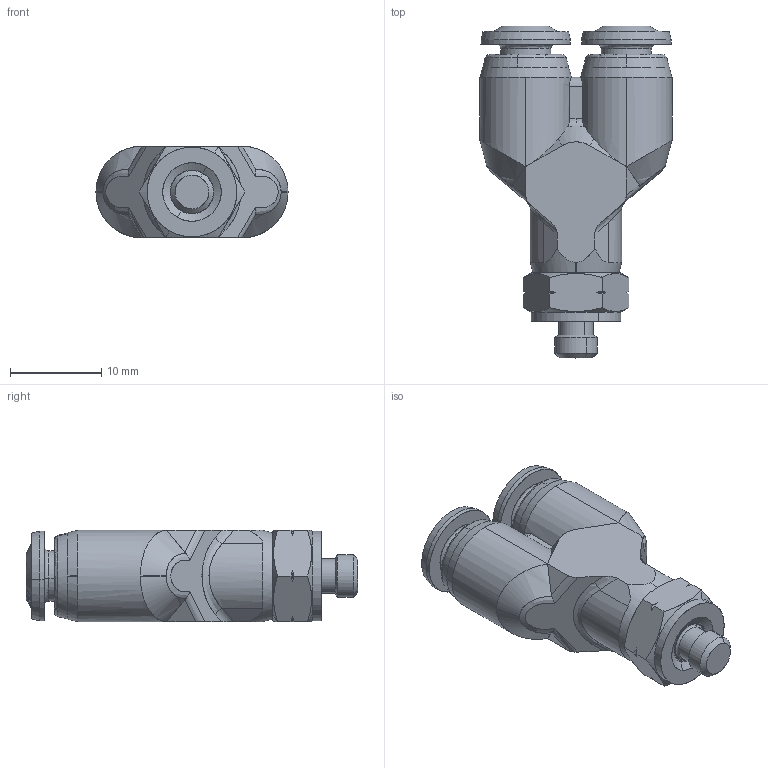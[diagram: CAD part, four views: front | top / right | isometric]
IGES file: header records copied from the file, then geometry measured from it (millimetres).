
Start section: SolidWorks IGES file using analytic representation for surfaces
Global section: file name: C:\Users\Cad01\Desktop\assiemi alfa\85325\8532500001A.igs; native system: SolidWorks 2012; preprocessor: SolidWorks 2012; author: Cad01; date: 121106.112921; units: millimetre
Bounding box: 21 x 36.3 x 10 mm (x, y, z)
Surface area: 1996.9 mm2 (no closed solid volume)
Topology: 0 solids, 0 shells, 372 faces, 3671 edges, 3671 vertices
Faces by surface type: bspline 266, revolution 106
